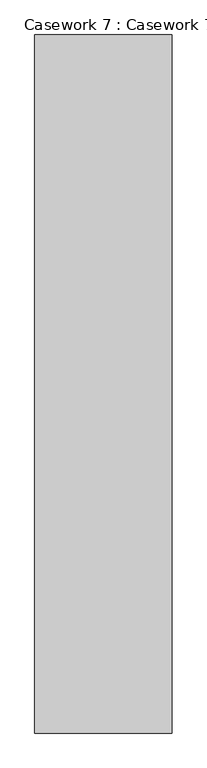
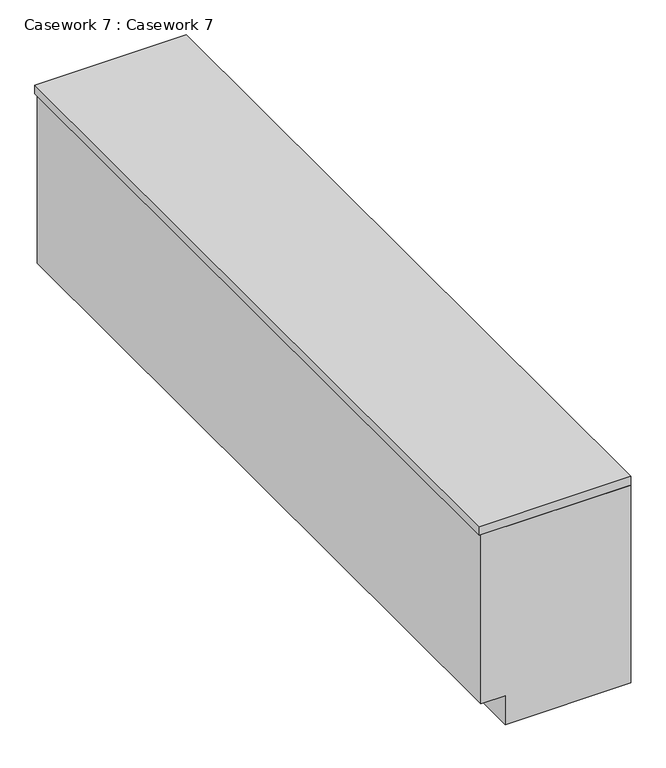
"""IFC4 building model written with IfcOpenShell, lengths in millimetres: furniture geometry, Casework 7 : Casework 7."""

from ifc_helpers import new_model, si_unit, frame, origin, place, context, project, spatial, polyline, outline, extrude, source, transform, mapped, element, save


def casework_7_casework_7_b0f50ad1(model_context):
    return source(origin(), model_context, "Body", "SweptSolid", [
        extrude(outline(polyline([(4127.5, 3822.7), (4127.5, 3194.05), (3378.2, 3194.05), (3378.2, 3295.65), (3251.2, 3295.65), (3251.2, 3822.7), (4127.5, 3822.7)])), frame((0.0, 165.1, 0.0), z_axis=(0.0, 1.0, 0.0), x_axis=(0.0, 0.0, 1.0)), (0.0, 0.0, 1.0), 3219.45),
        extrude(outline(polyline([(3187.7, 3390.9), (3822.7, 3390.9), (3822.7, 165.1), (3187.7, 165.1), (3187.7, 3390.9)])), frame((0.0, 0.0, 4127.5), z_axis=(0.0, 0.0, 1.0), x_axis=(1.0, 0.0, 0.0)), (0.0, 0.0, 1.0), 38.1),
    ])


if __name__ == "__main__":
    model = new_model("IFC4")
    model_context = context("Model", 3, world=origin())
    ifc_project = project(units=[si_unit("LENGTHUNIT", "METRE", prefix="MILLI")], contexts=[model_context])
    site = spatial("IfcSite", under=ifc_project)
    building = spatial("IfcBuilding", under=site)
    placement = place(None, origin())
    casework_7_casework_7_shape = casework_7_casework_7_b0f50ad1(model_context)
    element("IfcFurniture", 1, ObjectType="Casework 7 : Casework 7", at=placement, inside=building, context=model_context, shape_type="MappedRepresentation", body=[
        mapped(casework_7_casework_7_shape, transform((0.0, 0.0, 0.0), x_axis=(1.0, 0.0, 0.0), y_axis=(0.0, 1.0, 0.0), z_axis=(0.0, 0.0, 1.0))),
    ])
    save(model, "model.ifc")
